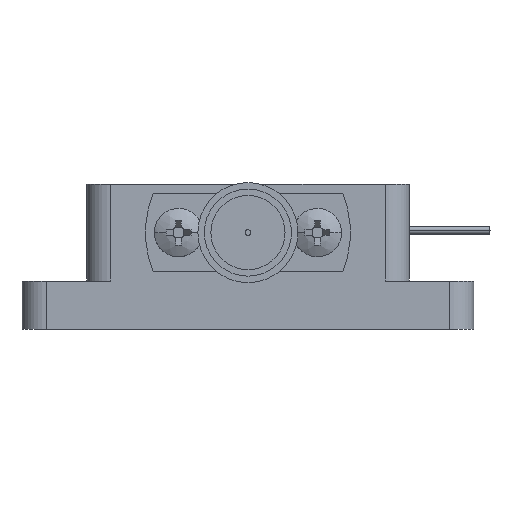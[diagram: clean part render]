
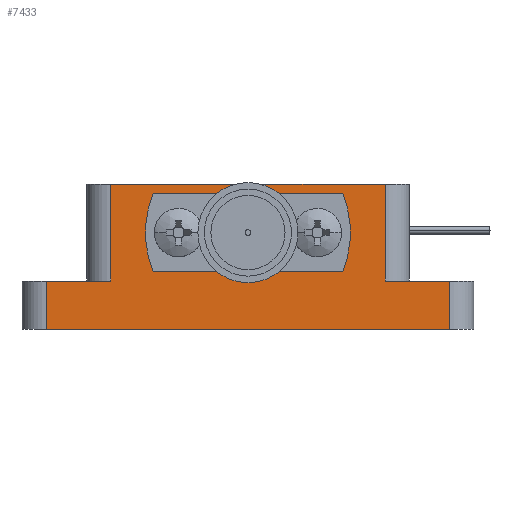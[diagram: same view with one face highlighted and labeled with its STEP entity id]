
A CAD part, left-side view. The second image highlights one B-rep face of the part: STEP entity #7433.
In plain terms, the highlighted planar face has unit normal (-1, 0, 0).
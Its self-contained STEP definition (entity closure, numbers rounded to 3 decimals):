
#45 = DIRECTION ( 'NONE',  ( 0., 0., -1. ) ) ;
#233 = DIRECTION ( 'NONE',  ( 0., -1., 0. ) ) ;
#299 = DIRECTION ( 'NONE',  ( 0., -1., 0. ) ) ;
#1148 = AXIS2_PLACEMENT_3D ( 'NONE', #10441, #12339, #4836 ) ;
#1346 = FACE_OUTER_BOUND ( 'NONE', #21228, .T. ) ;
#1393 = EDGE_CURVE ( 'NONE', #6373, #15532, #24307, .T. ) ;
#1802 = AXIS2_PLACEMENT_3D ( 'NONE', #19019, #7671, #233 ) ;
#2371 = EDGE_CURVE ( 'NONE', #14095, #16153, #18940, .T. ) ;
#2567 = CARTESIAN_POINT ( 'NONE',  ( 39.448, 25.708, 6. ) ) ;
#2630 = CARTESIAN_POINT ( 'NONE',  ( 39.448, 18.508, 9. ) ) ;
#2873 = CARTESIAN_POINT ( 'NONE',  ( 39.448, 22.708, 6. ) ) ;
#3070 = AXIS2_PLACEMENT_3D ( 'NONE', #2873, #10606, #19758 ) ;
#3294 = DIRECTION ( 'NONE',  ( 1., 0., 0. ) ) ;
#3364 = DIRECTION ( 'NONE',  ( -1., 0., 0. ) ) ;
#3457 = ORIENTED_EDGE ( 'NONE', *, *, #21762, .F. ) ;
#3615 = DIRECTION ( 'NONE',  ( 0., 0., -1. ) ) ;
#3709 = FACE_BOUND ( 'NONE', #10424, .T. ) ;
#3827 = VERTEX_POINT ( 'NONE', #22418 ) ;
#4600 = EDGE_CURVE ( 'NONE', #3827, #21675, #18571, .T. ) ;
#4607 = VERTEX_POINT ( 'NONE', #22556 ) ;
#4836 = DIRECTION ( 'NONE',  ( 0., -1., 0. ) ) ;
#4847 = CARTESIAN_POINT ( 'NONE',  ( 39.448, 35.508, 9. ) ) ;
#4908 = LINE ( 'NONE', #15026, #8459 ) ;
#5080 = ORIENTED_EDGE ( 'NONE', *, *, #13063, .F. ) ;
#5525 = DIRECTION ( 'NONE',  ( 0., 0., -1. ) ) ;
#5590 = CIRCLE ( 'NONE', #1802, 0.8 ) ;
#5885 = VECTOR ( 'NONE', #18110, 1000. ) ;
#6072 = DIRECTION ( 'NONE',  ( -1., 0., 0. ) ) ;
#6373 = VERTEX_POINT ( 'NONE', #23368 ) ;
#6633 = VECTOR ( 'NONE', #8429, 1000. ) ;
#7011 = ORIENTED_EDGE ( 'NONE', *, *, #23394, .F. ) ;
#7168 = CARTESIAN_POINT ( 'NONE',  ( 39.448, 14.508, 3. ) ) ;
#7220 = CIRCLE ( 'NONE', #1148, 1.3 ) ;
#7239 = CARTESIAN_POINT ( 'NONE',  ( 39.448, 39.508, 3. ) ) ;
#7312 = VERTEX_POINT ( 'NONE', #12360 ) ;
#7433 = ADVANCED_FACE ( 'NONE', ( #16678, #12264, #1346, #3709 ), #14705, .F. ) ;
#7671 = DIRECTION ( 'NONE',  ( -1., 0., 0. ) ) ;
#7764 = VECTOR ( 'NONE', #23587, 1000. ) ;
#7835 = EDGE_LOOP ( 'NONE', ( #10394, #3457 ) ) ;
#8159 = LINE ( 'NONE', #7168, #22026 ) ;
#8408 = ORIENTED_EDGE ( 'NONE', *, *, #18203, .F. ) ;
#8429 = DIRECTION ( 'NONE',  ( 0., -1., 0. ) ) ;
#8459 = VECTOR ( 'NONE', #45, 1000. ) ;
#8852 = LINE ( 'NONE', #21030, #21210 ) ;
#9133 = DIRECTION ( 'NONE',  ( 0., 1., 0. ) ) ;
#9995 = DIRECTION ( 'NONE',  ( 0., -1., 0. ) ) ;
#10058 = VECTOR ( 'NONE', #21220, 1000. ) ;
#10209 = AXIS2_PLACEMENT_3D ( 'NONE', #17557, #19545, #9995 ) ;
#10394 = ORIENTED_EDGE ( 'NONE', *, *, #2371, .F. ) ;
#10424 = EDGE_LOOP ( 'NONE', ( #20420, #19425 ) ) ;
#10441 = CARTESIAN_POINT ( 'NONE',  ( 39.448, 27.008, 6. ) ) ;
#10534 = CARTESIAN_POINT ( 'NONE',  ( 39.448, 23.508, 6. ) ) ;
#10562 = CARTESIAN_POINT ( 'NONE',  ( 39.448, 30.508, 6. ) ) ;
#10593 = VERTEX_POINT ( 'NONE', #21020 ) ;
#10606 = DIRECTION ( 'NONE',  ( -1., 0., 0. ) ) ;
#10631 = VERTEX_POINT ( 'NONE', #11625 ) ;
#10689 = CARTESIAN_POINT ( 'NONE',  ( 39.448, 21.908, 6. ) ) ;
#11055 = VERTEX_POINT ( 'NONE', #2630 ) ;
#11518 = EDGE_CURVE ( 'NONE', #3827, #15532, #17724, .T. ) ;
#11625 = CARTESIAN_POINT ( 'NONE',  ( 39.448, 14.508, 0. ) ) ;
#11766 = VECTOR ( 'NONE', #5525, 1000. ) ;
#11875 = CARTESIAN_POINT ( 'NONE',  ( 39.448, 39.508, 3. ) ) ;
#12115 = VERTEX_POINT ( 'NONE', #2567 ) ;
#12264 = FACE_BOUND ( 'NONE', #23141, .T. ) ;
#12339 = DIRECTION ( 'NONE',  ( -1., 0., 0. ) ) ;
#12360 = CARTESIAN_POINT ( 'NONE',  ( 39.448, 18.508, 3. ) ) ;
#12702 = AXIS2_PLACEMENT_3D ( 'NONE', #7239, #3294, #9133 ) ;
#12937 = CIRCLE ( 'NONE', #3070, 0.8 ) ;
#13063 = EDGE_CURVE ( 'NONE', #6373, #11055, #8852, .T. ) ;
#13115 = LINE ( 'NONE', #11875, #6633 ) ;
#13136 = ORIENTED_EDGE ( 'NONE', *, *, #11518, .F. ) ;
#13856 = EDGE_CURVE ( 'NONE', #21675, #10631, #22682, .T. ) ;
#13985 = CARTESIAN_POINT ( 'NONE',  ( 39.448, 35.508, 3. ) ) ;
#14004 = CIRCLE ( 'NONE', #10209, 1.3 ) ;
#14056 = CARTESIAN_POINT ( 'NONE',  ( 39.448, 22.708, 6. ) ) ;
#14095 = VERTEX_POINT ( 'NONE', #10689 ) ;
#14134 = DIRECTION ( 'NONE',  ( 0., -1., 0. ) ) ;
#14175 = EDGE_CURVE ( 'NONE', #4607, #19169, #15248, .T. ) ;
#14705 = PLANE ( 'NONE',  #12702 ) ;
#15026 = CARTESIAN_POINT ( 'NONE',  ( 39.448, 18.508, 9. ) ) ;
#15248 = CIRCLE ( 'NONE', #16974, 0.8 ) ;
#15532 = VERTEX_POINT ( 'NONE', #13985 ) ;
#15741 = EDGE_CURVE ( 'NONE', #19353, #10631, #8159, .T. ) ;
#16109 = CARTESIAN_POINT ( 'NONE',  ( 39.448, 39.508, 0. ) ) ;
#16121 = CARTESIAN_POINT ( 'NONE',  ( 39.448, 39.508, 0. ) ) ;
#16153 = VERTEX_POINT ( 'NONE', #10534 ) ;
#16561 = AXIS2_PLACEMENT_3D ( 'NONE', #14056, #3364, #14134 ) ;
#16678 = FACE_BOUND ( 'NONE', #7835, .T. ) ;
#16725 = ORIENTED_EDGE ( 'NONE', *, *, #24360, .F. ) ;
#16974 = AXIS2_PLACEMENT_3D ( 'NONE', #19246, #6072, #299 ) ;
#17085 = CARTESIAN_POINT ( 'NONE',  ( 39.448, 14.508, 3. ) ) ;
#17534 = ORIENTED_EDGE ( 'NONE', *, *, #13856, .T. ) ;
#17557 = CARTESIAN_POINT ( 'NONE',  ( 39.448, 27.008, 6. ) ) ;
#17724 = LINE ( 'NONE', #21054, #10058 ) ;
#17856 = ORIENTED_EDGE ( 'NONE', *, *, #4600, .T. ) ;
#18110 = DIRECTION ( 'NONE',  ( 0., -1., 0. ) ) ;
#18111 = ORIENTED_EDGE ( 'NONE', *, *, #15741, .F. ) ;
#18203 = EDGE_CURVE ( 'NONE', #12115, #10593, #7220, .T. ) ;
#18571 = LINE ( 'NONE', #18861, #11766 ) ;
#18861 = CARTESIAN_POINT ( 'NONE',  ( 39.448, 39.508, 3. ) ) ;
#18940 = CIRCLE ( 'NONE', #16561, 0.8 ) ;
#19019 = CARTESIAN_POINT ( 'NONE',  ( 39.448, 31.308, 6. ) ) ;
#19169 = VERTEX_POINT ( 'NONE', #10562 ) ;
#19246 = CARTESIAN_POINT ( 'NONE',  ( 39.448, 31.308, 6. ) ) ;
#19353 = VERTEX_POINT ( 'NONE', #17085 ) ;
#19425 = ORIENTED_EDGE ( 'NONE', *, *, #14175, .F. ) ;
#19545 = DIRECTION ( 'NONE',  ( -1., 0., 0. ) ) ;
#19758 = DIRECTION ( 'NONE',  ( 0., -1., 0. ) ) ;
#20351 = ORIENTED_EDGE ( 'NONE', *, *, #1393, .T. ) ;
#20420 = ORIENTED_EDGE ( 'NONE', *, *, #21345, .F. ) ;
#21020 = CARTESIAN_POINT ( 'NONE',  ( 39.448, 28.308, 6. ) ) ;
#21030 = CARTESIAN_POINT ( 'NONE',  ( 39.448, 18.508, 9. ) ) ;
#21054 = CARTESIAN_POINT ( 'NONE',  ( 39.448, 39.508, 3. ) ) ;
#21210 = VECTOR ( 'NONE', #22773, 1000. ) ;
#21220 = DIRECTION ( 'NONE',  ( 0., -1., 0. ) ) ;
#21228 = EDGE_LOOP ( 'NONE', ( #17534, #18111, #22318, #7011, #5080, #20351, #13136, #17856 ) ) ;
#21345 = EDGE_CURVE ( 'NONE', #19169, #4607, #5590, .T. ) ;
#21675 = VERTEX_POINT ( 'NONE', #16109 ) ;
#21762 = EDGE_CURVE ( 'NONE', #16153, #14095, #12937, .T. ) ;
#22026 = VECTOR ( 'NONE', #3615, 1000. ) ;
#22318 = ORIENTED_EDGE ( 'NONE', *, *, #24398, .F. ) ;
#22418 = CARTESIAN_POINT ( 'NONE',  ( 39.448, 39.508, 3. ) ) ;
#22556 = CARTESIAN_POINT ( 'NONE',  ( 39.448, 32.108, 6. ) ) ;
#22682 = LINE ( 'NONE', #16121, #5885 ) ;
#22773 = DIRECTION ( 'NONE',  ( 0., -1., 0. ) ) ;
#23141 = EDGE_LOOP ( 'NONE', ( #8408, #16725 ) ) ;
#23368 = CARTESIAN_POINT ( 'NONE',  ( 39.448, 35.508, 9. ) ) ;
#23394 = EDGE_CURVE ( 'NONE', #11055, #7312, #4908, .T. ) ;
#23587 = DIRECTION ( 'NONE',  ( 0., 0., -1. ) ) ;
#24307 = LINE ( 'NONE', #4847, #7764 ) ;
#24360 = EDGE_CURVE ( 'NONE', #10593, #12115, #14004, .T. ) ;
#24398 = EDGE_CURVE ( 'NONE', #7312, #19353, #13115, .T. ) ;
